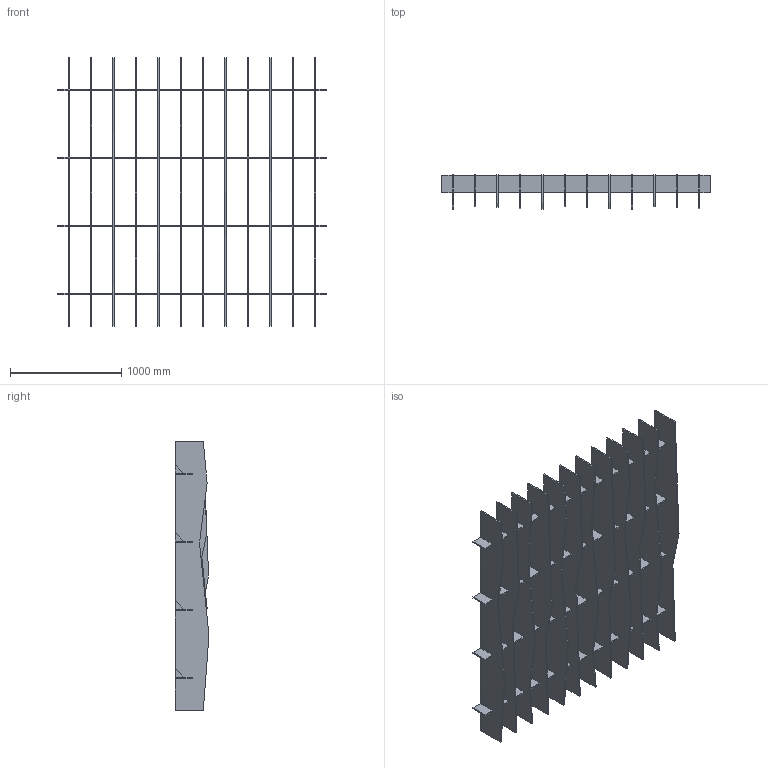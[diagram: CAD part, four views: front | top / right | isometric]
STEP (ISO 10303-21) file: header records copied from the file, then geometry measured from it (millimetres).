
FILE_DESCRIPTION(/* description */ (''),/* implementation_level */ '2;1');
FILE_NAME(/* name */ 'Y:\Design and Engineering\MaterialLogiq\CAD ASSETS\MASTER\BAFFLE\WEB ASSETS\PET BAFFLE_8x8_12_FIN_10_PEAKS.stp',/* time_stamp */ '2023-11-17T12:55:27-06:00',/* author */ ('Grant Baker'),/* organization */ (''),/* preprocessor_version */ 'ST-DEVELOPER v19',/* originating_system */ 'Autodesk Inventor 2023',/* authorisation */ '');
FILE_SCHEMA (('AUTOMOTIVE_DESIGN { 1 0 10303 214 3 1 1 }'));
Length unit declared in the file: inch
Products named in the file (6): PET BAFFLE_PARAMETRIC_11.02.2023; PET BAFFLE_BEAM; PET BAFFLE_FIN_96in_PEAKS-1; PET BAFFLE_FIN_96in_PEAKS-3; PET BAFFLE_FIN_96in_PEAKS-2; PET BAFFLE_FIN_96in_PEAKS-4
Assembly tree (16 placements, depth 2):
  PET BAFFLE_PARAMETRIC_11.02.2023
    PET BAFFLE_BEAM  x4
    PET BAFFLE_FIN_96in_PEAKS-1  x3
    PET BAFFLE_FIN_96in_PEAKS-3  x3
    PET BAFFLE_FIN_96in_PEAKS-2  x3
    PET BAFFLE_FIN_96in_PEAKS-4  x3
Bounding box: 2413 x 304.8 x 2413 mm (x, y, z)
Volume: 107216233.6 mm3; surface area: 18852647.5 mm2
Topology: 64 solids, 64 shells, 1182 faces, 3162 edges, 2108 vertices
Faces by surface type: plane 1182
Entity records: 11213 total; most frequent: CARTESIAN_POINT 1972, ORIENTED_EDGE 1908, DIRECTION 1718, LINE 954, VECTOR 954, EDGE_CURVE 954, VERTEX_POINT 636, AXIS2_PLACEMENT_3D 382
